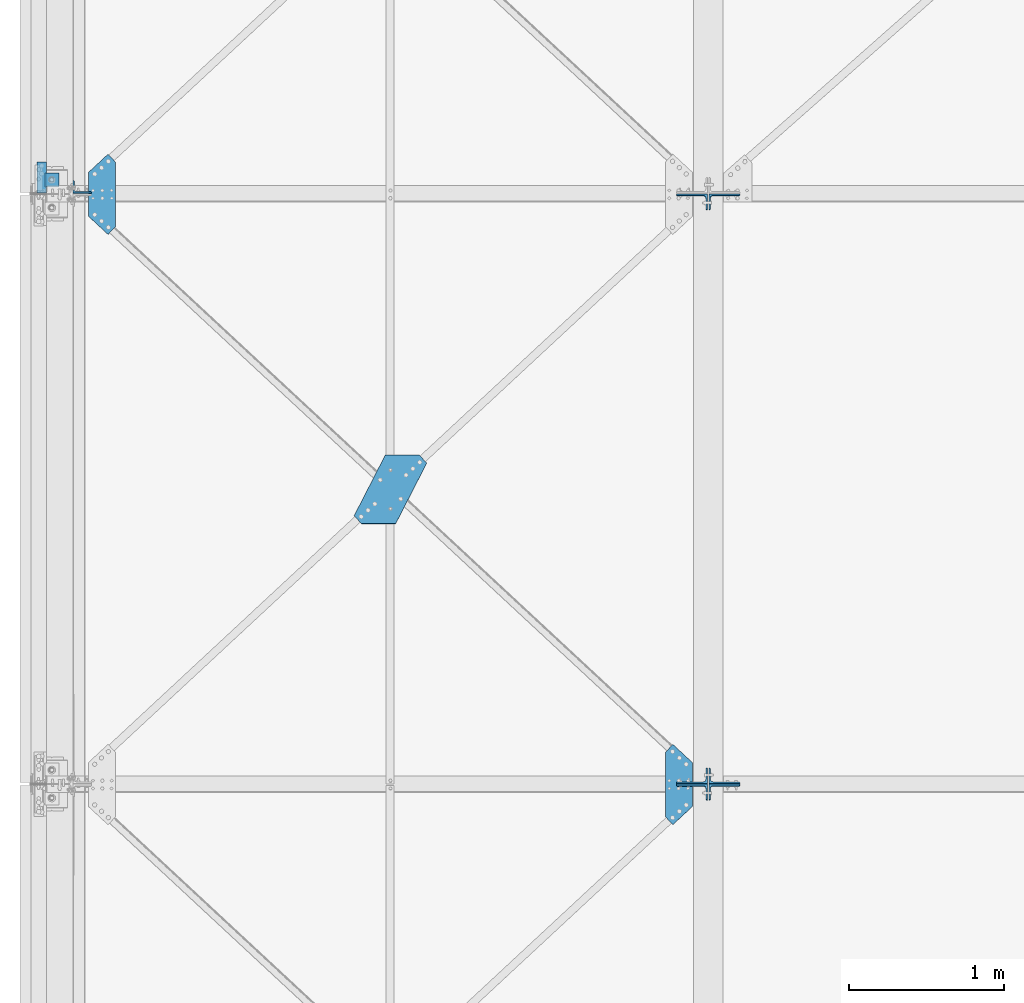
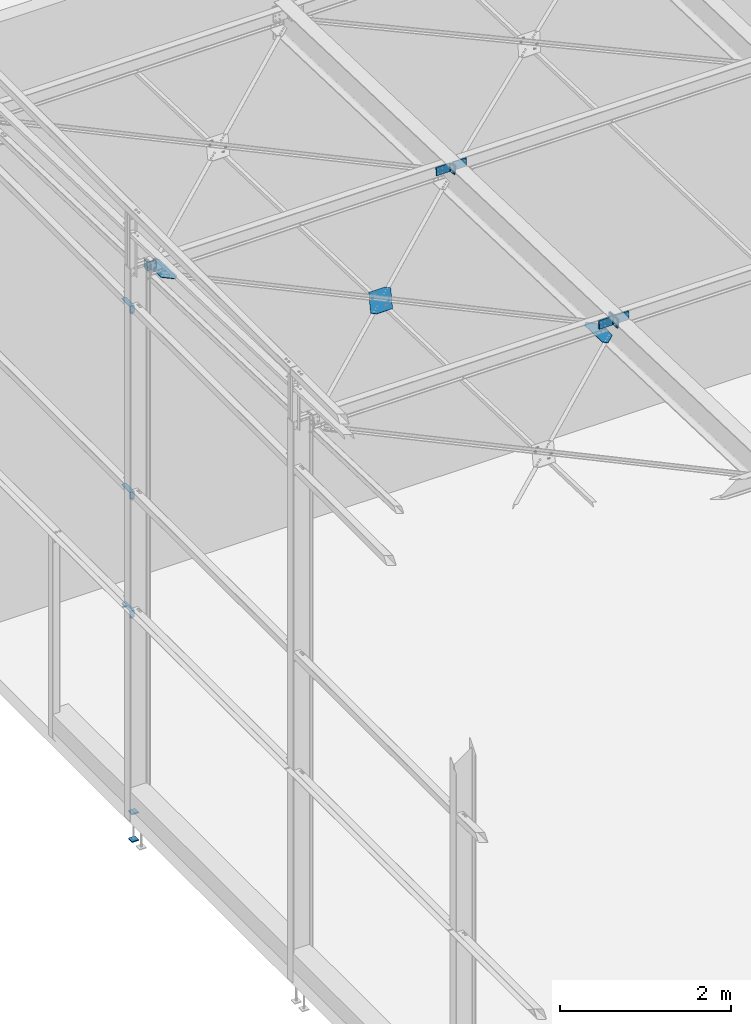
# One storey, part 76 of 362: 8 beams, 7 members, 14 elements without a shape of their own.
"""IFC2X3 building model written with IfcOpenShell, lengths in millimetres."""

from ifc_helpers import new_model, si_unit, frame, origin_with_axes, origin_2d_with_axis, place, context, subcontext, project, spatial, polyline, l_section, outline, extrude, material, type_object, element, aggregate, save


model = new_model("IFC2X3")

# Units and contexts
model_context = context("Model", 3, precision=1e-05, world=origin_with_axes())
body_context = subcontext(model_context, "Body", "Model", "MODEL_VIEW")
ifc_project = project(units=[si_unit("LENGTHUNIT", "METRE", prefix="MILLI"), si_unit("AREAUNIT", "SQUARE_METRE"), si_unit("VOLUMEUNIT", "CUBIC_METRE"), si_unit("MASSUNIT", "GRAM", prefix="KILO"), si_unit("TIMEUNIT", "SECOND"), si_unit("PLANEANGLEUNIT", "RADIAN"), si_unit("SOLIDANGLEUNIT", "STERADIAN"), si_unit("THERMODYNAMICTEMPERATUREUNIT", "DEGREE_CELSIUS"), si_unit("LUMINOUSINTENSITYUNIT", "LUMEN")], contexts=[model_context])

# Site, building, storey
site_placement = place(None, origin_with_axes())
site = spatial("IfcSite", under=ifc_project, at=site_placement, Name="Undefined", CompositionType="ELEMENT")
building_placement = place(site_placement, origin_with_axes())
building = spatial("IfcBuilding", under=site, at=building_placement, Name="Undefined", CompositionType="ELEMENT")
storey_placement = place(building_placement, origin_with_axes())
storey = spatial("IfcBuildingStorey", under=building, at=storey_placement, Name="Undefined", CompositionType="ELEMENT", Elevation=0.0)

# Assembly, beam
assembly_1_placement = place(storey_placement, origin_with_axes())
assembly_1 = element("IfcElementAssembly", 1, at=assembly_1_placement, inside=storey, AssemblyPlace="NOTDEFINED", PredefinedType="NOTDEFINED")
ifc_material = material(Name="Undefined/S235-E24")
beam_type_1 = type_object("IfcBeamType", Name="TOLE6*262", PredefinedType="NOTDEFINED")
beam_1_placement = place(assembly_1_placement, frame((2321.30220508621, 9717.61972509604, 7541.51371551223), z_axis=(7.58071938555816e-11, 0.0314107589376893, 0.999506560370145), x_axis=(-1.0, 0.0, 0.0)))
beam_1 = element("IfcBeam", 2, at=beam_1_placement, type_object=beam_type_1, material=ifc_material, Name="GOUSSET", ObjectType="TOLE6*262", context=body_context, shape_type="SweptSolid", body=[
    extrude(outline(polyline([(0.0, 0.0), (219.999999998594, -9.93168214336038e-10), (420.263031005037, 390.657226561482), (372.604370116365, 441.927673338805), (152.604415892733, 441.927612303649), (-47.6586227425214, 51.2704162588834), (0.0, 0.0)])), frame((0.0, 0.0, -3.0), z_axis=(0.0, 0.0, 1.0), x_axis=(1.0, 0.0, 0.0)), (0.0, 0.0, 1.0), 6.0),
])
aggregate(assembly_1, [beam_1])

assembly_2_placement = place(storey_placement, origin_with_axes())
assembly_2 = element("IfcElementAssembly", 3, at=assembly_2_placement, inside=storey, AssemblyPlace="NOTDEFINED", PredefinedType="NOTDEFINED")
beam_type_2 = type_object("IfcBeamType", Name="TOLE6*175", PredefinedType="NOTDEFINED")
beam_2_placement = place(assembly_2_placement, frame((190.000000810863, 11537.436072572, 7484.32284643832), z_axis=(-1.05403257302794e-09, -0.0314112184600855, -0.999506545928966), x_axis=(0.732434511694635, 0.680501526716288, -0.0213859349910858)))
beam_2 = element("IfcBeam", 4, at=beam_2_placement, type_object=beam_type_2, material=ifc_material, Name="GOUSSET", ObjectType="TOLE6*175", context=body_context, shape_type="SweptSolid", body=[
    extrude(outline(polyline([(0.0, 0.0), (173.397750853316, 2.20097717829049e-10), (173.397735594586, 70.0000000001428), (-109.18666839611, 373.993011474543), (-179.000320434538, 379.097381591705), (-191.644119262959, 206.167800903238), (0.0, 0.0)])), frame((0.0, 0.0, -3.0), z_axis=(0.0, 0.0, 1.0), x_axis=(1.0, 0.0, 0.0)), (0.0, 0.0, 1.0), 6.0),
])
aggregate(assembly_2, [beam_2])

assembly_3_placement = place(storey_placement, origin_with_axes())
assembly_3 = element("IfcElementAssembly", 5, at=assembly_3_placement, inside=storey, AssemblyPlace="NOTDEFINED", PredefinedType="NOTDEFINED")
beam_3_placement = place(assembly_3_placement, frame((4079.9999991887, 7737.43555853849, 7603.74442003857), z_axis=(7.58071938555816e-11, 0.0314107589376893, 0.999506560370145), x_axis=(-0.732434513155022, 0.680501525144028, -0.0213859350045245)))
beam_3 = element("IfcBeam", 6, at=beam_3_placement, type_object=beam_type_2, material=ifc_material, Name="GOUSSET", ObjectType="TOLE6*175", context=body_context, shape_type="SweptSolid", body=[
    extrude(outline(polyline([(0.0, 0.0), (173.397750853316, 2.20097717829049e-10), (173.397735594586, 70.0000000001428), (-109.18592071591, 373.992950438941), (-178.999572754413, 379.097320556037), (-191.641067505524, 206.164520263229), (0.0, 0.0)])), frame((0.0, 0.0, -3.0), z_axis=(0.0, 0.0, 1.0), x_axis=(1.0, 0.0, 0.0)), (0.0, 0.0, 1.0), 6.0),
])
aggregate(assembly_3, [beam_3])

# Assembly, member
assembly_4_placement = place(storey_placement, origin_with_axes())
assembly_4 = element("IfcElementAssembly", 7, at=assembly_4_placement, inside=storey, AssemblyPlace="NOTDEFINED", PredefinedType="NOTDEFINED")
member_type_1 = type_object("IfcMemberType", Name="L200*100*10", PredefinedType="NOTDEFINED")
member_1_placement = place(assembly_4_placement, frame((4075.00000000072, 11345.141980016, 7533.38204333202), z_axis=(-1.0, 0.0, 0.0), x_axis=(7.58071938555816e-11, 0.0314107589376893, 0.999506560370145)))
member_1 = element("IfcMember", 8, at=member_1_placement, type_object=member_type_1, material=ifc_material, Name="ATTACHE", ObjectType="L200*100*10", context=body_context, shape_type="SweptSolid", body=[
    extrude(l_section(Depth=200.0, Width=100.0, Thickness=10.0, FilletRadius=15.0, EdgeRadius=7.5, at=origin_2d_with_axis()), frame((120.0, 0.0, 0.0), z_axis=(-1.0, 0.0, 0.0), x_axis=(0.0, -1.0, 0.0)), (0.0, 0.0, 1.0), 120.0),
])
aggregate(assembly_4, [member_1])

assembly_5_placement = place(storey_placement, origin_with_axes())
assembly_5 = element("IfcElementAssembly", 9, at=assembly_5_placement, inside=storey, AssemblyPlace="NOTDEFINED", PredefinedType="NOTDEFINED")
member_2_placement = place(assembly_5_placement, frame((4285.00000000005, 11348.9113261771, 7653.3228288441), z_axis=(1.0, 0.0, 0.0), x_axis=(-1.05403257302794e-09, -0.0314112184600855, -0.999506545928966)))
member_2 = element("IfcMember", 10, at=member_2_placement, type_object=member_type_1, material=ifc_material, Name="ATTACHE", ObjectType="L200*100*10", context=body_context, shape_type="SweptSolid", body=[
    extrude(l_section(Depth=200.0, Width=100.0, Thickness=10.0, FilletRadius=15.0, EdgeRadius=7.5, at=origin_2d_with_axis()), frame((120.0, 0.0, 0.0), z_axis=(-1.0, 0.0, 0.0), x_axis=(0.0, -1.0, 0.0)), (0.0, 0.0, 1.0), 120.0),
])
aggregate(assembly_5, [member_2])

assembly_6_placement = place(storey_placement, origin_with_axes())
assembly_6 = element("IfcElementAssembly", 11, at=assembly_6_placement, inside=storey, AssemblyPlace="NOTDEFINED", PredefinedType="NOTDEFINED")
member_3_placement = place(assembly_6_placement, frame((4075.00000000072, 7654.85936797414, 7769.4147863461), z_axis=(-1.0, 0.0, 0.0), x_axis=(-1.05403257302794e-09, -0.0314112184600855, -0.999506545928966)))
member_3 = element("IfcMember", 12, at=member_3_placement, type_object=member_type_1, material=ifc_material, Name="ATTACHE", ObjectType="L200*100*10", context=body_context, shape_type="SweptSolid", body=[
    extrude(l_section(Depth=200.0, Width=100.0, Thickness=10.0, FilletRadius=15.0, EdgeRadius=7.5, at=origin_2d_with_axis()), frame((120.0, 0.0, 0.0), z_axis=(-1.0, 0.0, 0.0), x_axis=(0.0, -1.0, 0.0)), (0.0, 0.0, 1.0), 120.0),
])
aggregate(assembly_6, [member_3])

assembly_7_placement = place(storey_placement, origin_with_axes())
assembly_7 = element("IfcElementAssembly", 13, at=assembly_7_placement, inside=storey, AssemblyPlace="NOTDEFINED", PredefinedType="NOTDEFINED")
member_4_placement = place(assembly_7_placement, frame((4285.00000000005, 7651.09002180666, 7649.47400083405), z_axis=(1.0, 0.0, 0.0), x_axis=(7.58071938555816e-11, 0.0314107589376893, 0.999506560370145)))
member_4 = element("IfcMember", 14, at=member_4_placement, type_object=member_type_1, material=ifc_material, Name="ATTACHE", ObjectType="L200*100*10", context=body_context, shape_type="SweptSolid", body=[
    extrude(l_section(Depth=200.0, Width=100.0, Thickness=10.0, FilletRadius=15.0, EdgeRadius=7.5, at=origin_2d_with_axis()), frame((120.0, 0.0, 0.0), z_axis=(-1.0, 0.0, 0.0), x_axis=(0.0, -1.0, 0.0)), (0.0, 0.0, 1.0), 120.0),
])
aggregate(assembly_7, [member_4])

assembly_8_placement = place(storey_placement, origin_with_axes())
assembly_8 = element("IfcElementAssembly", 15, at=assembly_8_placement, inside=storey, AssemblyPlace="NOTDEFINED", PredefinedType="NOTDEFINED")
member_5_placement = place(assembly_8_placement, frame((4075.00000000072, 7545.14146607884, 7652.80361703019), z_axis=(-1.0, 0.0, 0.0), x_axis=(7.58071938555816e-11, 0.0314107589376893, 0.999506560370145)))
member_5 = element("IfcMember", 16, at=member_5_placement, type_object=member_type_1, material=ifc_material, Name="ATTACHE", ObjectType="L200*100*10", context=body_context, shape_type="SweptSolid", body=[
    extrude(l_section(Depth=200.0, Width=100.0, Thickness=10.0, FilletRadius=15.0, EdgeRadius=7.5, at=origin_2d_with_axis()), frame((120.0, 0.0, 0.0), z_axis=(-1.0, 0.0, 0.0), x_axis=(0.0, -1.0, 0.0)), (0.0, 0.0, 1.0), 120.0),
])
aggregate(assembly_8, [member_5])

assembly_9_placement = place(storey_placement, origin_with_axes())
assembly_9 = element("IfcElementAssembly", 17, at=assembly_9_placement, inside=storey, AssemblyPlace="NOTDEFINED", PredefinedType="NOTDEFINED")
member_6_placement = place(assembly_9_placement, frame((4285.00000000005, 7548.9108122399, 7772.74440254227), z_axis=(1.0, 0.0, 0.0), x_axis=(-1.05403257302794e-09, -0.0314112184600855, -0.999506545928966)))
member_6 = element("IfcMember", 18, at=member_6_placement, type_object=member_type_1, material=ifc_material, Name="ATTACHE", ObjectType="L200*100*10", context=body_context, shape_type="SweptSolid", body=[
    extrude(l_section(Depth=200.0, Width=100.0, Thickness=10.0, FilletRadius=15.0, EdgeRadius=7.5, at=origin_2d_with_axis()), frame((120.0, 0.0, 0.0), z_axis=(-1.0, 0.0, 0.0), x_axis=(0.0, -1.0, 0.0)), (0.0, 0.0, 1.0), 120.0),
])
aggregate(assembly_9, [member_6])

# Assembly, beam
assembly_10_placement = place(storey_placement, origin_with_axes())
assembly_10 = element("IfcElementAssembly", 19, at=assembly_10_placement, inside=storey, AssemblyPlace="NOTDEFINED", PredefinedType="NOTDEFINED")
beam_type_3 = type_object("IfcBeamType", Name="L200*100*10", PredefinedType="NOTDEFINED")
beam_4_placement = place(assembly_10_placement, frame((-80.000006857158, 11505.0000006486, 2709.9999839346), z_axis=(0.0, 1.0, 0.0), x_axis=(-1.0, 0.0, 0.0)))
beam_4 = element("IfcBeam", 20, at=beam_4_placement, type_object=beam_type_3, material=ifc_material, Name="ATTACHE", ObjectType="L200*100*10", context=body_context, shape_type="SweptSolid", body=[
    extrude(l_section(Depth=200.0, Width=100.0, Thickness=10.0, FilletRadius=15.0, EdgeRadius=7.5, at=origin_2d_with_axis()), frame((60.0, 0.0, 0.0), z_axis=(-1.0, 0.0, 0.0), x_axis=(0.0, -1.0, 0.0)), (0.0, 0.0, 1.0), 60.0),
])
aggregate(assembly_10, [beam_4])

assembly_11_placement = place(storey_placement, origin_with_axes())
assembly_11 = element("IfcElementAssembly", 21, at=assembly_11_placement, inside=storey, AssemblyPlace="NOTDEFINED", PredefinedType="NOTDEFINED")
beam_5_placement = place(assembly_11_placement, frame((-80.000006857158, 11505.0000006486, 4399.99998404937), z_axis=(0.0, 1.0, 0.0), x_axis=(-1.0, 0.0, 0.0)))
beam_5 = element("IfcBeam", 22, at=beam_5_placement, type_object=beam_type_3, material=ifc_material, Name="ATTACHE", ObjectType="L200*100*10", context=body_context, shape_type="SweptSolid", body=[
    extrude(l_section(Depth=200.0, Width=100.0, Thickness=10.0, FilletRadius=15.0, EdgeRadius=7.5, at=origin_2d_with_axis()), frame((60.0, 0.0, 0.0), z_axis=(-1.0, 0.0, 0.0), x_axis=(0.0, -1.0, 0.0)), (0.0, 0.0, 1.0), 60.0),
])
aggregate(assembly_11, [beam_5])

assembly_12_placement = place(storey_placement, origin_with_axes())
assembly_12 = element("IfcElementAssembly", 23, at=assembly_12_placement, inside=storey, AssemblyPlace="NOTDEFINED", PredefinedType="NOTDEFINED")
beam_6_placement = place(assembly_12_placement, frame((-80.000006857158, 11505.0000006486, 7050.0), z_axis=(0.0, 1.0, 0.0), x_axis=(-1.0, 0.0, 0.0)))
beam_6 = element("IfcBeam", 24, at=beam_6_placement, type_object=beam_type_3, material=ifc_material, Name="ATTACHE", ObjectType="L200*100*10", context=body_context, shape_type="SweptSolid", body=[
    extrude(l_section(Depth=200.0, Width=100.0, Thickness=10.0, FilletRadius=15.0, EdgeRadius=7.5, at=origin_2d_with_axis()), frame((60.0, 0.0, 0.0), z_axis=(-1.0, 0.0, 0.0), x_axis=(0.0, -1.0, 0.0)), (0.0, 0.0, 1.0), 60.0),
])
aggregate(assembly_12, [beam_6])

# Assembly, member
assembly_13_placement = place(storey_placement, origin_with_axes())
assembly_13 = element("IfcElementAssembly", 25, at=assembly_13_placement, inside=storey, AssemblyPlace="NOTDEFINED", PredefinedType="NOTDEFINED")
member_type_2 = type_object("IfcMemberType", Name="L120*80*10", PredefinedType="NOTDEFINED")
member_7_placement = place(assembly_13_placement, frame((149.999999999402, 11441.0954703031, 7530.36653931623), z_axis=(1.0, 0.0, 0.0), x_axis=(7.58071938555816e-11, 0.0314107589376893, 0.999506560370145)))
member_7 = element("IfcMember", 26, at=member_7_placement, type_object=member_type_2, material=ifc_material, Name="ATTACHE", ObjectType="L120*80*10", context=body_context, shape_type="SweptSolid", body=[
    extrude(l_section(Depth=120.0, Width=80.0, Thickness=10.0, FilletRadius=11.0, EdgeRadius=5.5, at=origin_2d_with_axis()), frame((120.0, 0.0, 0.0), z_axis=(-1.0, 0.0, 0.0), x_axis=(0.0, -1.0, 0.0)), (0.0, 0.0, 1.0), 120.0),
])
aggregate(assembly_13, [member_7])

# Assembly, beams
assembly_14_placement = place(storey_placement, origin_with_axes())
assembly_14 = element("IfcElementAssembly", 27, at=assembly_14_placement, inside=storey, Name="PRESCELLEMENT PS24", AssemblyPlace="NOTDEFINED", PredefinedType="NOTDEFINED")
beam_type_4 = type_object("IfcBeamType", Name="PL15*90", PredefinedType="NOTDEFINED")
beam_7_placement = place(assembly_14_placement, frame((0.0, 11534.9971504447, -177.5), z_axis=(0.0, 0.0, 1.0), x_axis=(-1.0, 0.0, 0.0)))
beam_7 = element("IfcBeam", 28, at=beam_7_placement, type_object=beam_type_4, material=ifc_material, Name="PLAQUETTE", ObjectType="PL15*90", context=body_context, shape_type="SweptSolid", body=[
    extrude(outline(polyline([(0.0, 0.0), (90.0, 0.0), (90.0, 90.0), (0.0, 90.0), (0.0, 0.0)])), frame((0.0, 0.0, -7.5), z_axis=(0.0, 0.0, 1.0), x_axis=(1.0, 0.0, 0.0)), (0.0, 0.0, 1.0), 15.0),
])
beam_8_placement = place(assembly_14_placement, frame((0.0, 11534.9971504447, -572.5), z_axis=(0.0, 0.0, 1.0), x_axis=(-1.0, 0.0, 0.0)))
beam_8 = element("IfcBeam", 29, at=beam_8_placement, type_object=beam_type_4, material=ifc_material, Name="PLAQUETTE", ObjectType="PL15*90", context=body_context, shape_type="SweptSolid", body=[
    extrude(outline(polyline([(0.0, 0.0), (90.0, 0.0), (90.0, 90.0), (0.0, 90.0), (0.0, 0.0)])), frame((0.0, 0.0, -7.5), z_axis=(0.0, 0.0, 1.0), x_axis=(1.0, 0.0, 0.0)), (0.0, 0.0, 1.0), 15.0),
])
aggregate(assembly_14, [beam_7, beam_8])

save(model, "model.ifc")
